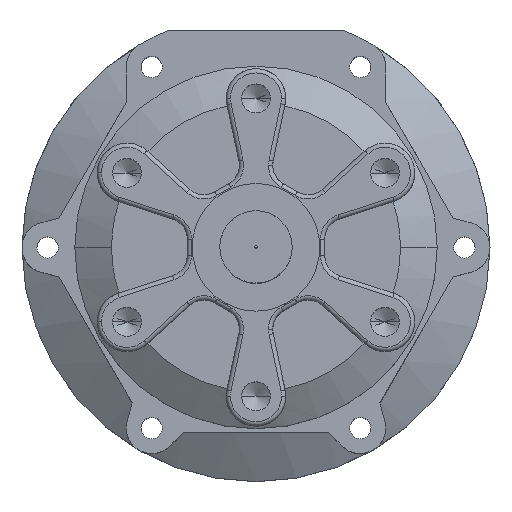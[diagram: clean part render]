
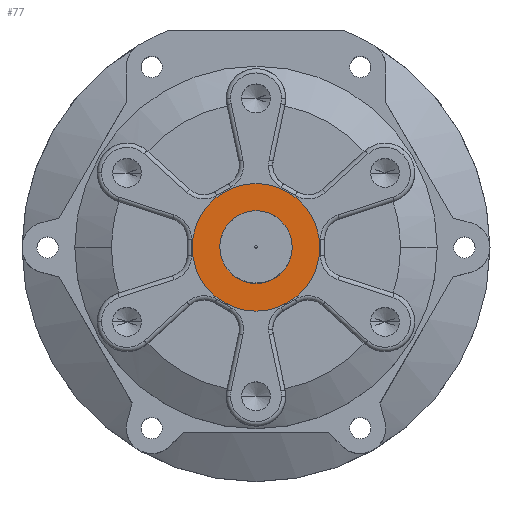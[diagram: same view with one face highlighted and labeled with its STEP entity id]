
A CAD part, top view. The second image highlights one B-rep face of the part: STEP entity #77.
In plain terms, the highlighted planar face has unit normal (0, 0, 1).
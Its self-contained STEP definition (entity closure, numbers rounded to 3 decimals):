
#77 = ADVANCED_FACE ( 'NONE', ( #8928, #1971 ), #10055, .F. ) ;
#94 = CARTESIAN_POINT ( 'NONE',  ( 15., 0., 0. ) ) ;
#899 = CARTESIAN_POINT ( 'NONE',  ( 0., 0., 0. ) ) ;
#1629 = VERTEX_POINT ( 'NONE', #15230 ) ;
#1890 = CARTESIAN_POINT ( 'NONE',  ( 0., 0., 0. ) ) ;
#1971 = FACE_OUTER_BOUND ( 'NONE', #6769, .T. ) ;
#2282 = ORIENTED_EDGE ( 'NONE', *, *, #10651, .T. ) ;
#2332 = DIRECTION ( 'NONE',  ( 0., 0., 1. ) ) ;
#3042 = CIRCLE ( 'NONE', #12368, 8.5 ) ;
#3531 = EDGE_CURVE ( 'NONE', #1629, #7284, #4774, .T. ) ;
#3800 = DIRECTION ( 'NONE',  ( 0., 0., -1. ) ) ;
#3858 = CARTESIAN_POINT ( 'NONE',  ( 0., 8.5, 0. ) ) ;
#3964 = EDGE_LOOP ( 'NONE', ( #10724, #8999 ) ) ;
#4577 = DIRECTION ( 'NONE',  ( 0., 0., 1. ) ) ;
#4648 = CARTESIAN_POINT ( 'NONE',  ( -8.5, 0., 0. ) ) ;
#4774 = CIRCLE ( 'NONE', #15514, 8.5 ) ;
#5444 = DIRECTION ( 'NONE',  ( 1., 0., 0. ) ) ;
#6199 = CARTESIAN_POINT ( 'NONE',  ( -15., 0., 0. ) ) ;
#6701 = DIRECTION ( 'NONE',  ( 0., 0., 1. ) ) ;
#6769 = EDGE_LOOP ( 'NONE', ( #9817, #2282 ) ) ;
#7284 = VERTEX_POINT ( 'NONE', #4648 ) ;
#7297 = DIRECTION ( 'NONE',  ( 1., 0., 0. ) ) ;
#7464 = VERTEX_POINT ( 'NONE', #94 ) ;
#8928 = FACE_BOUND ( 'NONE', #3964, .T. ) ;
#8999 = ORIENTED_EDGE ( 'NONE', *, *, #14420, .F. ) ;
#9078 = CARTESIAN_POINT ( 'NONE',  ( 0., 0., 0. ) ) ;
#9125 = DIRECTION ( 'NONE',  ( 0., 0., 1. ) ) ;
#9721 = CARTESIAN_POINT ( 'NONE',  ( 0., 0., 0. ) ) ;
#9817 = ORIENTED_EDGE ( 'NONE', *, *, #10131, .T. ) ;
#10055 = PLANE ( 'NONE',  #15370 ) ;
#10131 = EDGE_CURVE ( 'NONE', #7464, #13199, #14319, .T. ) ;
#10651 = EDGE_CURVE ( 'NONE', #13199, #7464, #12387, .T. ) ;
#10724 = ORIENTED_EDGE ( 'NONE', *, *, #3531, .F. ) ;
#12368 = AXIS2_PLACEMENT_3D ( 'NONE', #1890, #9125, #5444 ) ;
#12387 = CIRCLE ( 'NONE', #12994, 15. ) ;
#12472 = AXIS2_PLACEMENT_3D ( 'NONE', #9721, #2332, #7297 ) ;
#12826 = DIRECTION ( 'NONE',  ( 1., 0., 0. ) ) ;
#12994 = AXIS2_PLACEMENT_3D ( 'NONE', #899, #4577, #13153 ) ;
#13153 = DIRECTION ( 'NONE',  ( 1., 0., 0. ) ) ;
#13199 = VERTEX_POINT ( 'NONE', #6199 ) ;
#14319 = CIRCLE ( 'NONE', #12472, 15. ) ;
#14420 = EDGE_CURVE ( 'NONE', #7284, #1629, #3042, .T. ) ;
#14966 = DIRECTION ( 'NONE',  ( -1., 0., 0. ) ) ;
#15230 = CARTESIAN_POINT ( 'NONE',  ( 8.5, 0., 0. ) ) ;
#15370 = AXIS2_PLACEMENT_3D ( 'NONE', #3858, #3800, #14966 ) ;
#15514 = AXIS2_PLACEMENT_3D ( 'NONE', #9078, #6701, #12826 ) ;
